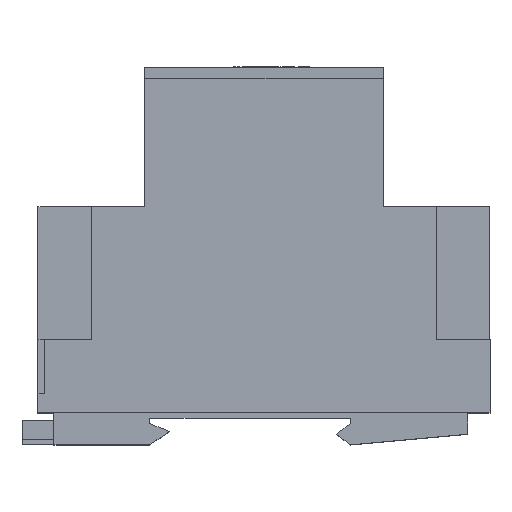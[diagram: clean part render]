
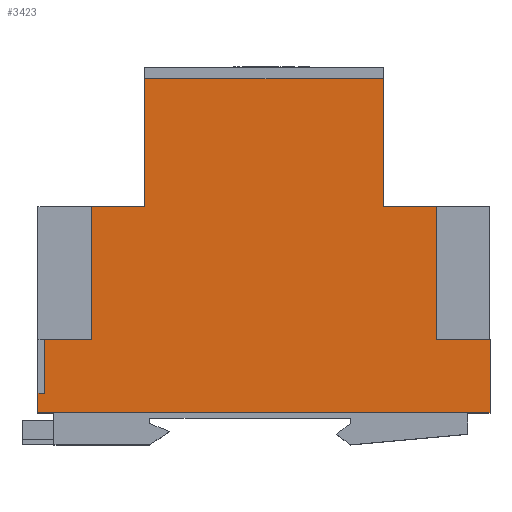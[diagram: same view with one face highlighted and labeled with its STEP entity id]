
A CAD part, top view. The second image highlights one B-rep face of the part: STEP entity #3423.
In plain terms, the highlighted planar face has unit normal (0, 0, 1).
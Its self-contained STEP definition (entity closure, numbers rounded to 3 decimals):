
#16 = CARTESIAN_POINT ( 'NONE',  ( -84.8, 0., 1.3 ) ) ;
#63 = LINE ( 'NONE', #10361, #11999 ) ;
#94 = DIRECTION ( 'NONE',  ( 1., 0., 0. ) ) ;
#142 = CARTESIAN_POINT ( 'NONE',  ( 0., 62.7, 1.3 ) ) ;
#220 = EDGE_CURVE ( 'NONE', #7515, #3375, #5698, .T. ) ;
#403 = VERTEX_POINT ( 'NONE', #13562 ) ;
#445 = ORIENTED_EDGE ( 'NONE', *, *, #3548, .F. ) ;
#523 = EDGE_CURVE ( 'NONE', #14194, #1042, #2077, .T. ) ;
#596 = VECTOR ( 'NONE', #3290, 1000. ) ;
#695 = CARTESIAN_POINT ( 'NONE',  ( 0., 38.7, 1.3 ) ) ;
#943 = CARTESIAN_POINT ( 'NONE',  ( -64.8, 62.7, 1.3 ) ) ;
#1042 = VERTEX_POINT ( 'NONE', #13445 ) ;
#1137 = CARTESIAN_POINT ( 'NONE',  ( -84.8, 3.7, 1.3 ) ) ;
#1222 = CARTESIAN_POINT ( 'NONE',  ( -20., 0., 1.3 ) ) ;
#1360 = CARTESIAN_POINT ( 'NONE',  ( -20., 62.7, 1.3 ) ) ;
#1447 = VERTEX_POINT ( 'NONE', #14892 ) ;
#1629 = AXIS2_PLACEMENT_3D ( 'NONE', #5742, #9176, #94 ) ;
#1677 = LINE ( 'NONE', #5560, #6545 ) ;
#1786 = VERTEX_POINT ( 'NONE', #8589 ) ;
#1834 = EDGE_CURVE ( 'NONE', #14571, #1447, #5860, .T. ) ;
#1978 = DIRECTION ( 'NONE',  ( 0., -1., 0. ) ) ;
#2008 = EDGE_CURVE ( 'NONE', #12150, #14194, #63, .T. ) ;
#2032 = EDGE_CURVE ( 'NONE', #11598, #12150, #6370, .T. ) ;
#2077 = LINE ( 'NONE', #2087, #13978 ) ;
#2087 = CARTESIAN_POINT ( 'NONE',  ( -10., 0., 1.3 ) ) ;
#2192 = VERTEX_POINT ( 'NONE', #11763 ) ;
#2400 = LINE ( 'NONE', #142, #14297 ) ;
#2522 = DIRECTION ( 'NONE',  ( 1., 0., 0. ) ) ;
#2769 = DIRECTION ( 'NONE',  ( -1., 0., 0. ) ) ;
#3064 = DIRECTION ( 'NONE',  ( -1., 0., 0. ) ) ;
#3179 = ORIENTED_EDGE ( 'NONE', *, *, #13476, .F. ) ;
#3270 = ORIENTED_EDGE ( 'NONE', *, *, #11340, .F. ) ;
#3290 = DIRECTION ( 'NONE',  ( 0., 1., 0. ) ) ;
#3304 = VECTOR ( 'NONE', #12725, 1000. ) ;
#3321 = ORIENTED_EDGE ( 'NONE', *, *, #8168, .F. ) ;
#3375 = VERTEX_POINT ( 'NONE', #943 ) ;
#3423 = ADVANCED_FACE ( 'NONE', ( #4581 ), #12701, .T. ) ;
#3548 = EDGE_CURVE ( 'NONE', #3375, #11598, #2400, .T. ) ;
#4364 = CARTESIAN_POINT ( 'NONE',  ( -64.8, 38.7, 1.3 ) ) ;
#4381 = CARTESIAN_POINT ( 'NONE',  ( 0., 0., 1.3 ) ) ;
#4450 = EDGE_LOOP ( 'NONE', ( #9524, #13223, #3179, #13000, #3270, #11180, #11657, #9534, #445, #9550, #10920, #12598, #3321, #4838 ) ) ;
#4581 = FACE_OUTER_BOUND ( 'NONE', #4450, .T. ) ;
#4731 = CARTESIAN_POINT ( 'NONE',  ( -83.5, 3.7, 1.3 ) ) ;
#4838 = ORIENTED_EDGE ( 'NONE', *, *, #1834, .F. ) ;
#5315 = CARTESIAN_POINT ( 'NONE',  ( 0., 13.7, 1.3 ) ) ;
#5560 = CARTESIAN_POINT ( 'NONE',  ( 0., 0., 1.3 ) ) ;
#5698 = LINE ( 'NONE', #10376, #10048 ) ;
#5742 = CARTESIAN_POINT ( 'NONE',  ( 0., 0., 1.3 ) ) ;
#5768 = DIRECTION ( 'NONE',  ( 0., 1., 0. ) ) ;
#5770 = LINE ( 'NONE', #5315, #8309 ) ;
#5860 = LINE ( 'NONE', #13215, #596 ) ;
#6130 = VECTOR ( 'NONE', #2769, 1000. ) ;
#6370 = LINE ( 'NONE', #1222, #3304 ) ;
#6545 = VECTOR ( 'NONE', #1978, 1000. ) ;
#6598 = DIRECTION ( 'NONE',  ( 1., 0., 0. ) ) ;
#6842 = EDGE_CURVE ( 'NONE', #6915, #14522, #11175, .T. ) ;
#6843 = DIRECTION ( 'NONE',  ( 0., 1., 0. ) ) ;
#6915 = VERTEX_POINT ( 'NONE', #7178 ) ;
#7178 = CARTESIAN_POINT ( 'NONE',  ( -84.8, 0., 1.3 ) ) ;
#7515 = VERTEX_POINT ( 'NONE', #4364 ) ;
#7576 = DIRECTION ( 'NONE',  ( 1., 0., 0. ) ) ;
#7607 = VERTEX_POINT ( 'NONE', #8530 ) ;
#7913 = LINE ( 'NONE', #4381, #11708 ) ;
#8105 = VECTOR ( 'NONE', #5768, 1000. ) ;
#8168 = EDGE_CURVE ( 'NONE', #1447, #403, #14901, .T. ) ;
#8309 = VECTOR ( 'NONE', #7576, 1000. ) ;
#8530 = CARTESIAN_POINT ( 'NONE',  ( 0., 13.7, 1.3 ) ) ;
#8589 = CARTESIAN_POINT ( 'NONE',  ( 0., 0., 1.3 ) ) ;
#8618 = EDGE_CURVE ( 'NONE', #7607, #1786, #1677, .T. ) ;
#9176 = DIRECTION ( 'NONE',  ( 0., 0., 1. ) ) ;
#9317 = EDGE_CURVE ( 'NONE', #403, #2192, #11069, .T. ) ;
#9524 = ORIENTED_EDGE ( 'NONE', *, *, #11686, .T. ) ;
#9534 = ORIENTED_EDGE ( 'NONE', *, *, #2032, .F. ) ;
#9550 = ORIENTED_EDGE ( 'NONE', *, *, #220, .F. ) ;
#10035 = DIRECTION ( 'NONE',  ( 1., 0., 0. ) ) ;
#10048 = VECTOR ( 'NONE', #13679, 1000. ) ;
#10361 = CARTESIAN_POINT ( 'NONE',  ( 0., 38.7, 1.3 ) ) ;
#10376 = CARTESIAN_POINT ( 'NONE',  ( -64.8, 0., 1.3 ) ) ;
#10920 = ORIENTED_EDGE ( 'NONE', *, *, #13527, .F. ) ;
#11069 = LINE ( 'NONE', #11492, #13039 ) ;
#11175 = LINE ( 'NONE', #16, #8105 ) ;
#11180 = ORIENTED_EDGE ( 'NONE', *, *, #523, .F. ) ;
#11340 = EDGE_CURVE ( 'NONE', #1042, #7607, #5770, .T. ) ;
#11492 = CARTESIAN_POINT ( 'NONE',  ( -74.8, 0., 1.3 ) ) ;
#11598 = VERTEX_POINT ( 'NONE', #1360 ) ;
#11657 = ORIENTED_EDGE ( 'NONE', *, *, #2008, .F. ) ;
#11686 = EDGE_CURVE ( 'NONE', #14571, #14522, #14600, .T. ) ;
#11708 = VECTOR ( 'NONE', #3064, 1000. ) ;
#11763 = CARTESIAN_POINT ( 'NONE',  ( -74.8, 38.7, 1.3 ) ) ;
#11999 = VECTOR ( 'NONE', #13817, 1000. ) ;
#12150 = VERTEX_POINT ( 'NONE', #12921 ) ;
#12215 = VECTOR ( 'NONE', #6598, 1000. ) ;
#12324 = DIRECTION ( 'NONE',  ( 0., -1., 0. ) ) ;
#12598 = ORIENTED_EDGE ( 'NONE', *, *, #9317, .F. ) ;
#12701 = PLANE ( 'NONE',  #1629 ) ;
#12725 = DIRECTION ( 'NONE',  ( 0., -1., 0. ) ) ;
#12796 = LINE ( 'NONE', #695, #14406 ) ;
#12906 = CARTESIAN_POINT ( 'NONE',  ( -10., 38.7, 1.3 ) ) ;
#12921 = CARTESIAN_POINT ( 'NONE',  ( -20., 38.7, 1.3 ) ) ;
#13000 = ORIENTED_EDGE ( 'NONE', *, *, #8618, .F. ) ;
#13039 = VECTOR ( 'NONE', #6843, 1000. ) ;
#13100 = CARTESIAN_POINT ( 'NONE',  ( -83.5, 3.7, 1.3 ) ) ;
#13215 = CARTESIAN_POINT ( 'NONE',  ( -83.5, 3.7, 1.3 ) ) ;
#13223 = ORIENTED_EDGE ( 'NONE', *, *, #6842, .F. ) ;
#13445 = CARTESIAN_POINT ( 'NONE',  ( -10., 13.7, 1.3 ) ) ;
#13476 = EDGE_CURVE ( 'NONE', #1786, #6915, #7913, .T. ) ;
#13527 = EDGE_CURVE ( 'NONE', #2192, #7515, #12796, .T. ) ;
#13562 = CARTESIAN_POINT ( 'NONE',  ( -74.8, 13.7, 1.3 ) ) ;
#13679 = DIRECTION ( 'NONE',  ( 0., 1., 0. ) ) ;
#13817 = DIRECTION ( 'NONE',  ( 1., 0., 0. ) ) ;
#13978 = VECTOR ( 'NONE', #12324, 1000. ) ;
#14194 = VERTEX_POINT ( 'NONE', #12906 ) ;
#14297 = VECTOR ( 'NONE', #2522, 1000. ) ;
#14406 = VECTOR ( 'NONE', #10035, 1000. ) ;
#14522 = VERTEX_POINT ( 'NONE', #1137 ) ;
#14571 = VERTEX_POINT ( 'NONE', #4731 ) ;
#14600 = LINE ( 'NONE', #13100, #6130 ) ;
#14767 = CARTESIAN_POINT ( 'NONE',  ( 0., 13.7, 1.3 ) ) ;
#14892 = CARTESIAN_POINT ( 'NONE',  ( -83.5, 13.7, 1.3 ) ) ;
#14901 = LINE ( 'NONE', #14767, #12215 ) ;
